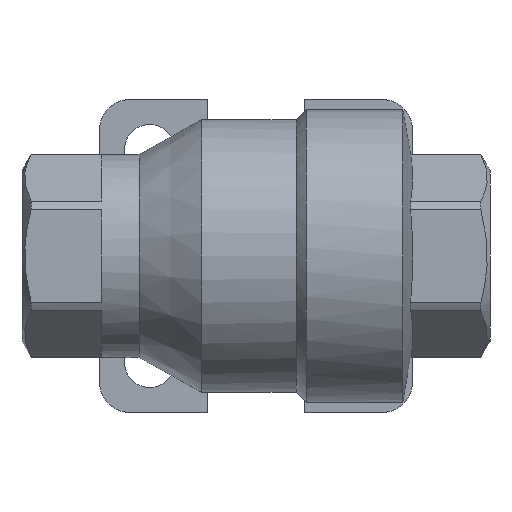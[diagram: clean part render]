
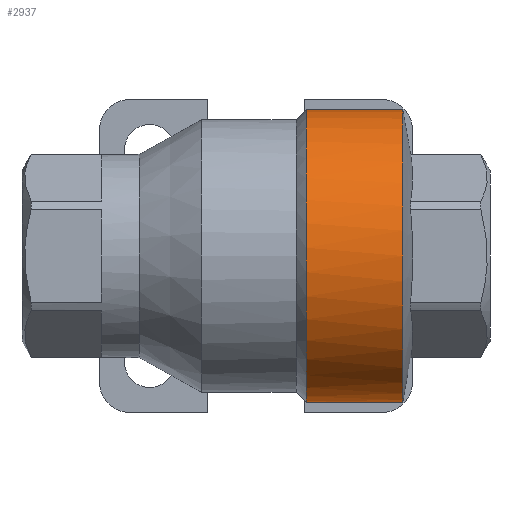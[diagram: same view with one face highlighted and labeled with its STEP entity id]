
A CAD part, front view. The second image highlights one B-rep face of the part: STEP entity #2937.
In plain terms, the highlighted cylindrical face has radius 17.5 mm (diameter 35 mm), a full revolution.
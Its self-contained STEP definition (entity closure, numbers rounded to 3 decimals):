
#43 = CARTESIAN_POINT ( 'NONE',  ( 6., 15.3, -8.495 ) ) ;
#102 = EDGE_LOOP ( 'NONE', ( #1597 ) ) ;
#155 = FACE_OUTER_BOUND ( 'NONE', #102, .T. ) ;
#338 = CARTESIAN_POINT ( 'NONE',  ( 8.788, 16.592, 5.576 ) ) ;
#349 = CARTESIAN_POINT ( 'NONE',  ( 9.857, 17.182, 3.343 ) ) ;
#373 = CARTESIAN_POINT ( 'NONE',  ( 9.555, 17.011, 4.127 ) ) ;
#391 = CIRCLE ( 'NONE', #1427, 17.5 ) ;
#456 = CARTESIAN_POINT ( 'NONE',  ( 10.297, 17.438, -1.685 ) ) ;
#460 = VERTEX_POINT ( 'NONE', #586 ) ;
#545 = CARTESIAN_POINT ( 'NONE',  ( 6., 15.3, 8.495 ) ) ;
#586 = CARTESIAN_POINT ( 'NONE',  ( 17.557, 0., 17.5 ) ) ;
#618 = CARTESIAN_POINT ( 'NONE',  ( 9.565, 17.016, -4.105 ) ) ;
#672 = AXIS2_PLACEMENT_3D ( 'NONE', #792, #2526, #803 ) ;
#704 = EDGE_LOOP ( 'NONE', ( #2234, #2862 ) ) ;
#722 = DIRECTION ( 'NONE',  ( 0., 0., 1. ) ) ;
#792 = CARTESIAN_POINT ( 'NONE',  ( -55.019, 0., 0. ) ) ;
#803 = DIRECTION ( 'NONE',  ( 0., 0., 1. ) ) ;
#874 = DIRECTION ( 'NONE',  ( 0., 0., 1. ) ) ;
#893 = CARTESIAN_POINT ( 'NONE',  ( 8.073, 16.224, 6.569 ) ) ;
#961 = CARTESIAN_POINT ( 'NONE',  ( 6., 0., 0. ) ) ;
#1055 = EDGE_CURVE ( 'NONE', #460, #460, #391, .T. ) ;
#1093 = CARTESIAN_POINT ( 'NONE',  ( 6.664, 15.56, 8.026 ) ) ;
#1170 = VERTEX_POINT ( 'NONE', #1640 ) ;
#1227 = CYLINDRICAL_SURFACE ( 'NONE', #672, 17.5 ) ;
#1335 = CARTESIAN_POINT ( 'NONE',  ( 9.383, 16.915, 4.504 ) ) ;
#1361 = CARTESIAN_POINT ( 'NONE',  ( 7.264, 15.831, 7.488 ) ) ;
#1401 = CARTESIAN_POINT ( 'NONE',  ( 10.401, 17.501, -0.844 ) ) ;
#1427 = AXIS2_PLACEMENT_3D ( 'NONE', #2600, #1642, #874 ) ;
#1516 = CARTESIAN_POINT ( 'NONE',  ( 9.863, 17.186, -3.324 ) ) ;
#1551 = CARTESIAN_POINT ( 'NONE',  ( 8.076, 16.225, -6.566 ) ) ;
#1597 = ORIENTED_EDGE ( 'NONE', *, *, #1055, .T. ) ;
#1640 = CARTESIAN_POINT ( 'NONE',  ( 6., 15.3, 8.495 ) ) ;
#1642 = DIRECTION ( 'NONE',  ( -1., 0., 0. ) ) ;
#1647 = EDGE_CURVE ( 'NONE', #2024, #1170, #1662, .T. ) ;
#1662 = CIRCLE ( 'NONE', #2839, 17.5 ) ;
#1793 = CARTESIAN_POINT ( 'NONE',  ( 7.54, 15.965, -7.174 ) ) ;
#1929 = CARTESIAN_POINT ( 'NONE',  ( 8.794, 16.595, -5.568 ) ) ;
#1975 = FACE_OUTER_BOUND ( 'NONE', #704, .T. ) ;
#2024 = VERTEX_POINT ( 'NONE', #2334 ) ;
#2036 = B_SPLINE_CURVE_WITH_KNOTS ( 'NONE', 3,
 ( #545, #1093, #1361, #893, #2100, #338, #2654, #1335, #373, #349, #2047, #2635, #3141, #1401, #456, #2329, #1516, #618, #2418, #3051, #1929, #2273, #1551, #1793, #2812, #2108, #2353, #43 ),
 .UNSPECIFIED., .F., .F.,
 ( 4, 2, 2, 2, 2, 2, 2, 2, 2, 2, 2, 2, 2, 4 ),
 ( 0.04, 0.042, 0.044, 0.045, 0.046, 0.047, 0.05, 0.052, 0.054, 0.055, 0.056, 0.058, 0.059, 0.06 ),
 .UNSPECIFIED. ) ;
#2047 = CARTESIAN_POINT ( 'NONE',  ( 9.985, 17.256, 2.939 ) ) ;
#2100 = CARTESIAN_POINT ( 'NONE',  ( 8.325, 16.351, 6.246 ) ) ;
#2108 = CARTESIAN_POINT ( 'NONE',  ( 6.652, 15.565, -8.004 ) ) ;
#2191 = EDGE_CURVE ( 'NONE', #1170, #2024, #2036, .T. ) ;
#2234 = ORIENTED_EDGE ( 'NONE', *, *, #2191, .F. ) ;
#2273 = CARTESIAN_POINT ( 'NONE',  ( 8.326, 16.352, -6.245 ) ) ;
#2329 = CARTESIAN_POINT ( 'NONE',  ( 9.992, 17.26, -2.917 ) ) ;
#2334 = CARTESIAN_POINT ( 'NONE',  ( 6., 15.3, -8.495 ) ) ;
#2353 = CARTESIAN_POINT ( 'NONE',  ( 6.332, 15.43, -8.26 ) ) ;
#2418 = CARTESIAN_POINT ( 'NONE',  ( 9.393, 16.92, -4.483 ) ) ;
#2440 = DIRECTION ( 'NONE',  ( -1., 0., 0. ) ) ;
#2526 = DIRECTION ( 'NONE',  ( -1., 0., 0. ) ) ;
#2600 = CARTESIAN_POINT ( 'NONE',  ( 17.557, 0., 0. ) ) ;
#2635 = CARTESIAN_POINT ( 'NONE',  ( 10.292, 17.435, 1.717 ) ) ;
#2654 = CARTESIAN_POINT ( 'NONE',  ( 9., 16.705, 5.228 ) ) ;
#2812 = CARTESIAN_POINT ( 'NONE',  ( 7.256, 15.832, -7.462 ) ) ;
#2839 = AXIS2_PLACEMENT_3D ( 'NONE', #961, #2440, #722 ) ;
#2862 = ORIENTED_EDGE ( 'NONE', *, *, #1647, .F. ) ;
#2937 = ADVANCED_FACE ( 'NONE', ( #1975, #155 ), #1227, .T. ) ;
#3051 = CARTESIAN_POINT ( 'NONE',  ( 9.008, 16.71, -5.213 ) ) ;
#3141 = CARTESIAN_POINT ( 'NONE',  ( 10.399, 17.499, 0.88 ) ) ;
